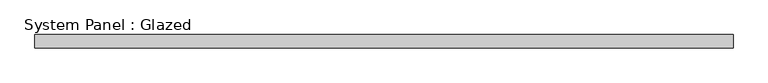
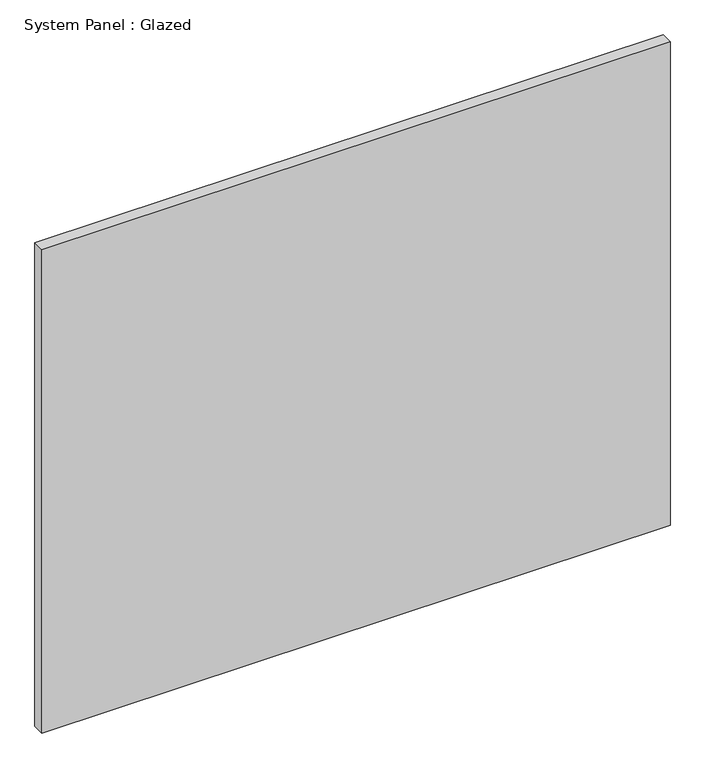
"""IFC4 building model written with IfcOpenShell, lengths in millimetres: plate geometry, System Panel : Glazed."""

from ifc_helpers import new_model, si_unit, origin, origin_with_axes, place, context, project, spatial, polyline, outline, extrude, source, transform, mapped, element, save


def system_panel_glazed_09297d85(model_context):
    return source(origin(), model_context, "Body", "SweptSolid", [
        extrude(outline(polyline([(655.4238159, 19.05), (-655.4238159, 19.05), (-655.4238159, 44.45), (655.4238159, 44.45), (655.4238159, 19.05)])), origin_with_axes(), (0.0, 0.0, 1.0), 1066.0767085),
    ])


if __name__ == "__main__":
    model = new_model("IFC4")
    model_context = context("Model", 3, world=origin())
    ifc_project = project(units=[si_unit("LENGTHUNIT", "METRE", prefix="MILLI")], contexts=[model_context])
    site = spatial("IfcSite", under=ifc_project)
    building = spatial("IfcBuilding", under=site)
    placement = place(None, origin())
    system_panel_glazed_shape = system_panel_glazed_09297d85(model_context)
    element("IfcPlate", 1, ObjectType="System Panel : Glazed", at=placement, inside=building, context=model_context, shape_type="MappedRepresentation", body=[
        mapped(system_panel_glazed_shape, transform((0.0, 0.0, 0.0), x_axis=(1.0, 0.0, 0.0), y_axis=(0.0, 1.0, 0.0), z_axis=(0.0, 0.0, 1.0))),
    ])
    save(model, "model.ifc")
